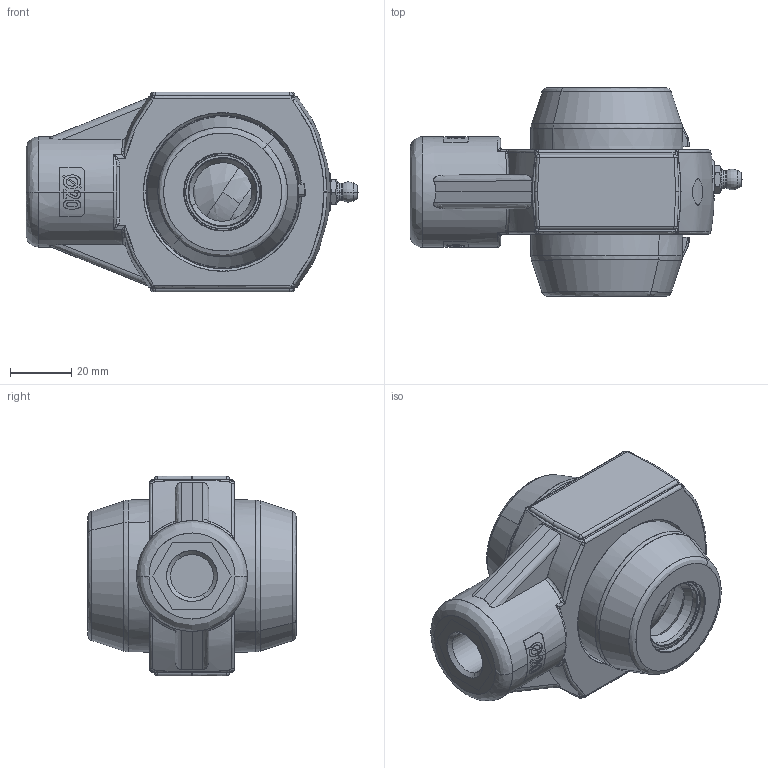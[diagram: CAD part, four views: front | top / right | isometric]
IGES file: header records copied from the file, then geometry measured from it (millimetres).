
Start section: SolidWorks IGES file using analytic representation for surfaces
Global section: file name: P:\DANIEL DISEÑO\INTERCAMBIO ARCHIVOS\3621DC20.IGS; native system: SolidWorks 2022; preprocessor: SolidWorks 2022; author: daniel.portillo; date: 240125.155806; units: millimetre
Bounding box: 108.05 x 67.9 x 65 mm (x, y, z)
Surface area: 65953.7 mm2 (no closed solid volume)
Topology: 0 solids, 0 shells, 1266 faces, 14450 edges, 14424 vertices
Faces by surface type: bspline 819, revolution 447
